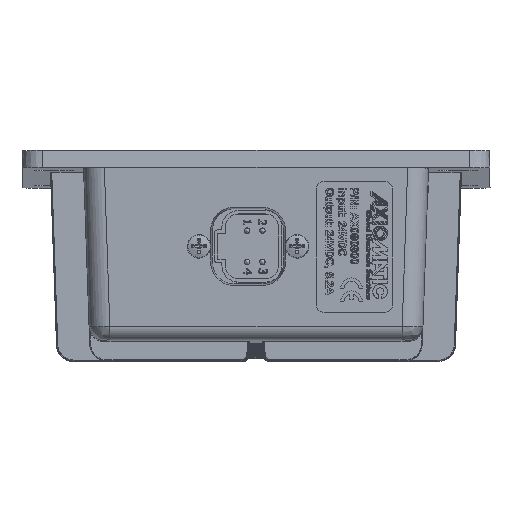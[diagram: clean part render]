
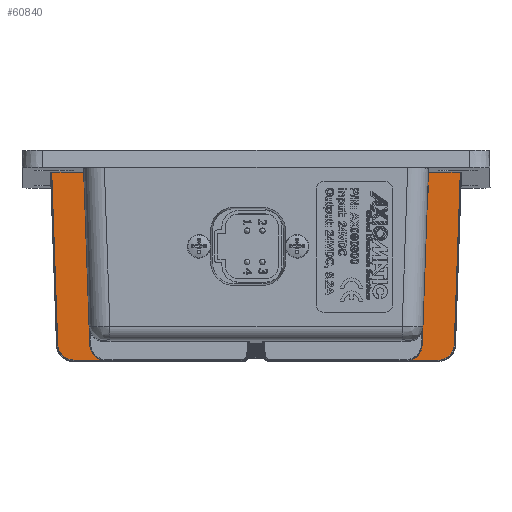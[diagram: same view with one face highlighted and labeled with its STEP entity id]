
A CAD part, top view. The second image highlights one B-rep face of the part: STEP entity #60840.
In plain terms, the highlighted planar face has unit normal (0, 0.009, 1).
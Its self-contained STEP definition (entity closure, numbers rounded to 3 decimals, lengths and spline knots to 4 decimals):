
#455=ELLIPSE('',#63660,0.1575,0.1575);
#459=ELLIPSE('',#63670,0.1575,0.1575);
#652=ELLIPSE('',#64103,0.1871,0.187);
#653=ELLIPSE('',#64106,0.0689,0.0689);
#654=ELLIPSE('',#64110,0.0197,0.0197);
#655=ELLIPSE('',#64114,0.0197,0.0197);
#656=ELLIPSE('',#64118,0.0689,0.0689);
#657=ELLIPSE('',#64122,0.1871,0.187);
#7245=FACE_OUTER_BOUND('',#10790,.T.);
#10790=EDGE_LOOP('',(#51537,#51538,#51539,#51540,#51541,#51542,#51543,#51544,
#51545,#51546,#51547,#51548,#51549,#51550,#51551,#51552,#51553,#51554,#51555,
#51556));
#14738=LINE('',#105313,#19861);
#14742=LINE('',#105325,#19865);
#15512=LINE('',#110787,#20635);
#15513=LINE('',#110819,#20636);
#15514=LINE('',#110851,#20637);
#15515=LINE('',#110882,#20638);
#15516=LINE('',#110913,#20639);
#15861=LINE('',#116916,#20984);
#15939=LINE('',#117866,#21062);
#15966=LINE('',#117912,#21089);
#16077=LINE('',#118131,#21200);
#16078=LINE('',#118132,#21201);
#19861=VECTOR('',#73478,0.3654);
#19865=VECTOR('',#73486,0.3654);
#20635=VECTOR('',#75960,0.1101);
#20636=VECTOR('',#75969,0.1548);
#20637=VECTOR('',#75978,0.1101);
#20638=VECTOR('',#75985,1.9097);
#20639=VECTOR('',#75994,1.9707);
#20984=VECTOR('',#78077,1.8047);
#21062=VECTOR('',#78421,1.9707);
#21089=VECTOR('',#78486,1.8047);
#21200=VECTOR('',#78707,1.9097);
#21201=VECTOR('',#78708,3.5025);
#25939=VERTEX_POINT('',#105310);
#25940=VERTEX_POINT('',#105312);
#25945=VERTEX_POINT('',#105322);
#25946=VERTEX_POINT('',#105324);
#26471=VERTEX_POINT('',#108293);
#26472=VERTEX_POINT('',#108295);
#26484=VERTEX_POINT('',#108370);
#26485=VERTEX_POINT('',#108372);
#26940=VERTEX_POINT('',#110749);
#26941=VERTEX_POINT('',#110751);
#26942=VERTEX_POINT('',#110779);
#26943=VERTEX_POINT('',#110781);
#26944=VERTEX_POINT('',#110785);
#26945=VERTEX_POINT('',#110813);
#26946=VERTEX_POINT('',#110817);
#26947=VERTEX_POINT('',#110845);
#26948=VERTEX_POINT('',#110849);
#26949=VERTEX_POINT('',#110877);
#26950=VERTEX_POINT('',#110881);
#26951=VERTEX_POINT('',#110909);
#33101=EDGE_CURVE('',#25939,#25940,#14738,.T.);
#33107=EDGE_CURVE('',#25945,#25946,#14742,.T.);
#33844=EDGE_CURVE('',#26471,#26472,#455,.F.);
#33860=EDGE_CURVE('',#26484,#26485,#459,.F.);
#34485=EDGE_CURVE('',#26941,#26940,#652,.T.);
#34488=EDGE_CURVE('',#26943,#26942,#653,.T.);
#34490=EDGE_CURVE('',#26944,#26943,#15512,.T.);
#34492=EDGE_CURVE('',#26945,#26944,#654,.T.);
#34494=EDGE_CURVE('',#26946,#26945,#15513,.T.);
#34496=EDGE_CURVE('',#26947,#26946,#655,.T.);
#34498=EDGE_CURVE('',#26948,#26947,#15514,.T.);
#34500=EDGE_CURVE('',#26949,#26948,#656,.T.);
#34501=EDGE_CURVE('',#26950,#26949,#15515,.T.);
#34504=EDGE_CURVE('',#26951,#26950,#657,.T.);
#34505=EDGE_CURVE('',#25946,#26951,#15516,.T.);
#35493=EDGE_CURVE('',#26472,#25945,#15861,.F.);
#35654=EDGE_CURVE('',#26940,#25939,#15939,.T.);
#35681=EDGE_CURVE('',#25940,#26484,#15966,.F.);
#35797=EDGE_CURVE('',#26942,#26941,#16077,.T.);
#35798=EDGE_CURVE('',#26485,#26471,#16078,.T.);
#51537=ORIENTED_EDGE('',*,*,#35681,.F.);
#51538=ORIENTED_EDGE('',*,*,#33101,.F.);
#51539=ORIENTED_EDGE('',*,*,#35654,.F.);
#51540=ORIENTED_EDGE('',*,*,#34485,.F.);
#51541=ORIENTED_EDGE('',*,*,#35797,.F.);
#51542=ORIENTED_EDGE('',*,*,#34488,.F.);
#51543=ORIENTED_EDGE('',*,*,#34490,.F.);
#51544=ORIENTED_EDGE('',*,*,#34492,.F.);
#51545=ORIENTED_EDGE('',*,*,#34494,.F.);
#51546=ORIENTED_EDGE('',*,*,#34496,.F.);
#51547=ORIENTED_EDGE('',*,*,#34498,.F.);
#51548=ORIENTED_EDGE('',*,*,#34500,.F.);
#51549=ORIENTED_EDGE('',*,*,#34501,.F.);
#51550=ORIENTED_EDGE('',*,*,#34504,.F.);
#51551=ORIENTED_EDGE('',*,*,#34505,.F.);
#51552=ORIENTED_EDGE('',*,*,#33107,.F.);
#51553=ORIENTED_EDGE('',*,*,#35493,.F.);
#51554=ORIENTED_EDGE('',*,*,#33844,.F.);
#51555=ORIENTED_EDGE('',*,*,#35798,.F.);
#51556=ORIENTED_EDGE('',*,*,#33860,.F.);
#54471=PLANE('',#65199);
#60840=ADVANCED_FACE('',(#7245),#54471,.F.);
#63660=AXIS2_PLACEMENT_3D('',#108296,#74730,#74731);
#63670=AXIS2_PLACEMENT_3D('',#108373,#74756,#74757);
#64103=AXIS2_PLACEMENT_3D('',#110753,#75948,#75949);
#64106=AXIS2_PLACEMENT_3D('',#110783,#75954,#75955);
#64110=AXIS2_PLACEMENT_3D('',#110815,#75963,#75964);
#64114=AXIS2_PLACEMENT_3D('',#110847,#75972,#75973);
#64118=AXIS2_PLACEMENT_3D('',#110879,#75981,#75982);
#64122=AXIS2_PLACEMENT_3D('',#110911,#75990,#75991);
#65199=AXIS2_PLACEMENT_3D('',#118130,#78705,#78706);
#73478=DIRECTION('',(1.,0.,0.));
#73486=DIRECTION('',(1.,0.,0.));
#74730=DIRECTION('center_axis',(0.,-0.009,
-1.));
#74731=DIRECTION('ref_axis',(0.,-1.,0.009));
#74756=DIRECTION('center_axis',(0.,-0.009,
-1.));
#74757=DIRECTION('ref_axis',(0.,-1.,0.009));
#75948=DIRECTION('center_axis',(0.,-0.009,
-1.));
#75949=DIRECTION('ref_axis',(0.,-1.,0.009));
#75954=DIRECTION('center_axis',(0.,-0.009,
-1.));
#75955=DIRECTION('ref_axis',(0.,-1.,0.009));
#75960=DIRECTION('',(-0.052,-0.999,0.009));
#75963=DIRECTION('center_axis',(0.,0.009,
1.));
#75964=DIRECTION('ref_axis',(0.,1.,-0.009));
#75969=DIRECTION('',(-1.,0.,0.));
#75972=DIRECTION('center_axis',(0.,0.009,
1.));
#75973=DIRECTION('ref_axis',(0.,1.,-0.009));
#75978=DIRECTION('',(-0.052,0.999,-0.009));
#75981=DIRECTION('center_axis',(0.,-0.009,
-1.));
#75982=DIRECTION('ref_axis',(0.,-1.,
0.009));
#75985=DIRECTION('',(-1.,0.,0.));
#75990=DIRECTION('center_axis',(0.,-0.009,
-1.));
#75991=DIRECTION('ref_axis',(0.,-1.,
0.009));
#75994=DIRECTION('',(-0.035,-0.999,0.009));
#78077=DIRECTION('',(-0.035,-0.999,0.009));
#78421=DIRECTION('',(-0.035,0.999,-0.009));
#78486=DIRECTION('',(-0.035,0.999,-0.009));
#78705=DIRECTION('center_axis',(0.,-0.009,
-1.));
#78706=DIRECTION('ref_axis',(-1.,0.,0.));
#78707=DIRECTION('',(-1.,0.,0.));
#78708=DIRECTION('',(1.,0.,0.));
#105310=CARTESIAN_POINT('',(-2.337,1.6507,1.9461));
#105312=CARTESIAN_POINT('',(-1.9716,1.6507,1.9461));
#105313=CARTESIAN_POINT('',(-2.3468,1.6507,1.9461));
#105322=CARTESIAN_POINT('',(1.9716,1.6507,1.9461));
#105324=CARTESIAN_POINT('',(2.337,1.6507,1.9461));
#105325=CARTESIAN_POINT('',(1.9716,1.6507,1.9461));
#108293=CARTESIAN_POINT('',(1.7513,-0.3049,1.9631));
#108295=CARTESIAN_POINT('',(1.9087,-0.1529,1.9618));
#108296=CARTESIAN_POINT('Origin',(1.7513,-0.1474,1.9618));
#108370=CARTESIAN_POINT('',(-1.9087,-0.1529,1.9618));
#108372=CARTESIAN_POINT('',(-1.7513,-0.3049,1.9631));
#108373=CARTESIAN_POINT('Origin',(-1.7513,-0.1474,
1.9618));
#110749=CARTESIAN_POINT('',(-2.2683,-0.3187,1.9633));
#110751=CARTESIAN_POINT('',(-2.0814,-0.4992,1.9648));
#110753=CARTESIAN_POINT('Origin',(-2.0814,-0.3122,
1.9632));
#110779=CARTESIAN_POINT('',(-0.1716,-0.4992,1.9648));
#110781=CARTESIAN_POINT('',(-0.1028,-0.4339,1.9643));
#110783=CARTESIAN_POINT('Origin',(-0.1716,-0.4303,
1.9642));
#110785=CARTESIAN_POINT('',(-0.0971,-0.324,1.9633));
#110787=CARTESIAN_POINT('',(-0.0853,-0.0995,1.9613));
#110813=CARTESIAN_POINT('',(-0.0774,-0.3053,1.9631));
#110815=CARTESIAN_POINT('Origin',(-0.0774,-0.325,
1.9633));
#110817=CARTESIAN_POINT('',(0.0774,-0.3053,1.9631));
#110819=CARTESIAN_POINT('',(0.0434,-0.3053,1.9631));
#110845=CARTESIAN_POINT('',(0.0971,-0.324,1.9633));
#110847=CARTESIAN_POINT('Origin',(0.0774,-0.325,
1.9633));
#110849=CARTESIAN_POINT('',(0.1028,-0.4339,1.9643));
#110851=CARTESIAN_POINT('',(0.0911,-0.211,1.9623));
#110877=CARTESIAN_POINT('',(0.1716,-0.4992,1.9648));
#110879=CARTESIAN_POINT('Origin',(0.1716,-0.4303,
1.9642));
#110881=CARTESIAN_POINT('',(2.0814,-0.4992,1.9648));
#110882=CARTESIAN_POINT('',(0.,-0.4992,1.9648));
#110909=CARTESIAN_POINT('',(2.2683,-0.3187,1.9633));
#110911=CARTESIAN_POINT('Origin',(2.0814,-0.3122,1.9632));
#110913=CARTESIAN_POINT('',(2.2665,-0.3678,1.9637));
#116916=CARTESIAN_POINT('',(1.9088,-0.1495,1.9618));
#117866=CARTESIAN_POINT('',(-2.3082,0.8268,1.9533));
#117912=CARTESIAN_POINT('',(-1.9116,-0.0679,1.9611));
#118130=CARTESIAN_POINT('Origin',(0.,0.0845,
1.9597));
#118131=CARTESIAN_POINT('',(0.,-0.4992,1.9648));
#118132=CARTESIAN_POINT('',(0.,-0.3049,1.9631));
